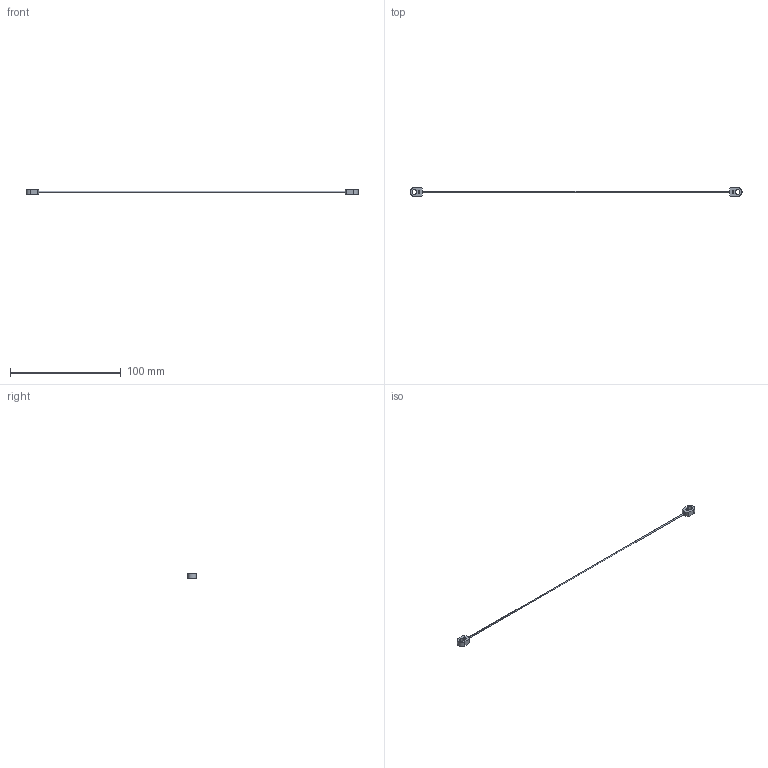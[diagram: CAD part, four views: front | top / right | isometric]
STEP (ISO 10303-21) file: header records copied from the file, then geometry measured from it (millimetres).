
FILE_DESCRIPTION (( 'STEP AP214' ), '1' );
FILE_NAME ('228-2500-438.STEP', '2021-02-18T20:02:50', ( '' ), ( '' ), 'SwSTEP 2.0', 'SolidWorks 2019', '' );
FILE_SCHEMA (( 'AUTOMOTIVE_DESIGN' ));
Length unit declared in the file: millimetre
Products named in the file (5): 228-2500-ROPE-OVERMOLD-MASTER Rev1_228-3943-ROPE-OVERMOLD-MASTER; 228-2500-438; 228-2500-438-01 Rev1_228-2500-438-01; 228-2500-438-00 Rev1_228-2500-438-00; 228-2500-449 Rev1_228-2500-449
Assembly tree (6 placements, depth 3):
  228-2500-438
    228-2500-438-00 Rev1_228-2500-438-00
      228-2500-449 Rev1_228-2500-449  x2
      228-2500-438-01 Rev1_228-2500-438-01
    228-2500-ROPE-OVERMOLD-MASTER Rev1_228-3943-ROPE-OVERMOLD-MASTER  x2
Bounding box: 300.1 x 8 x 4.57 mm (x, y, z)
Volume: 908.1 mm3; surface area: 1997.2 mm2
Topology: 5 solids, 5 shells, 58 faces, 130 edges, 80 vertices
Faces by surface type: cylinder 26, plane 20, bspline 8, torus 4
Entity records: 1126 total; most frequent: CARTESIAN_POINT 229, DIRECTION 174, ORIENTED_EDGE 136, AXIS2_PLACEMENT_3D 71, EDGE_CURVE 68, VERTEX_POINT 42, EDGE_LOOP 38, CIRCLE 34
